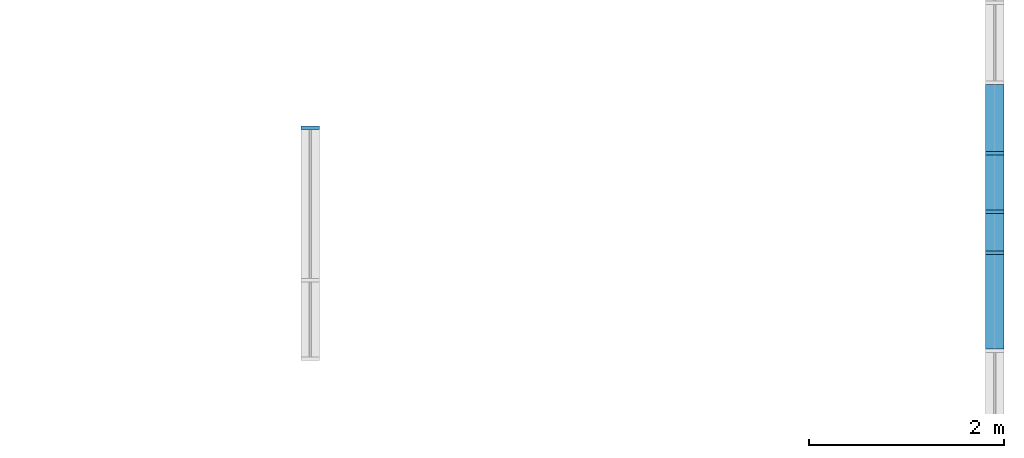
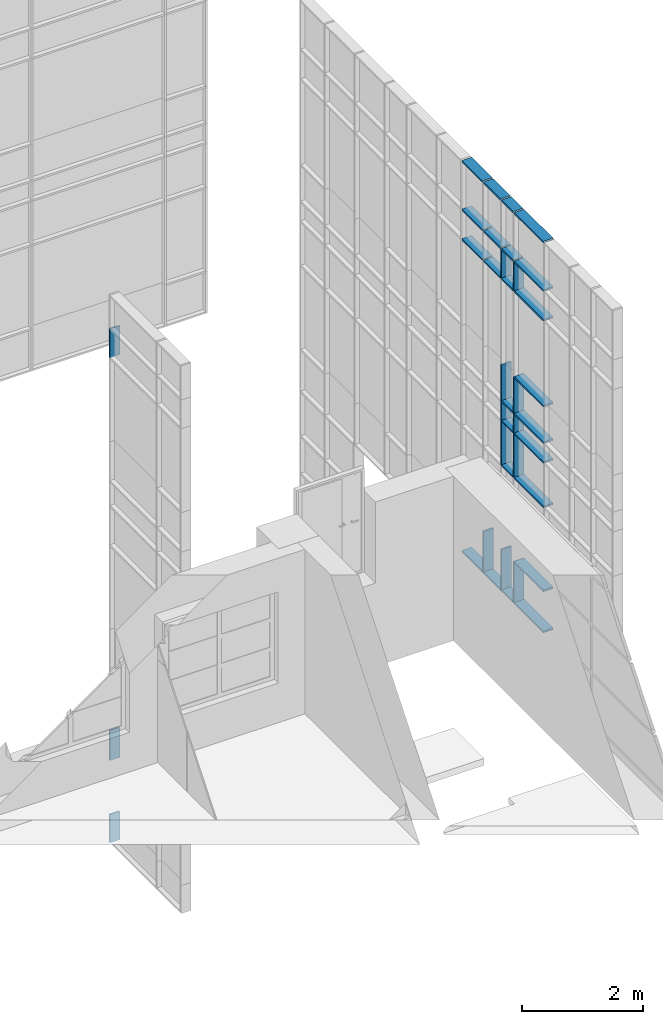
# One storey, part 14 of 73: 38 members, 2 elements without a shape of their own.
"""IFC2X3 building model written with IfcOpenShell, lengths in millimetres."""

from ifc_helpers import new_model, entity, si_unit, converted_unit, derived_unit, direction, frame, origin, origin_2d_with_axis, place, context, subcontext, project, spatial, rectangle, extrude, source, transform, mapped, material, type_object, type_shapes, element, aggregate, save


model = new_model("IFC2X3")

# Units and contexts
model_context = context("Model", 3, precision=0.01, world=origin(), true_north=direction((6.12303176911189e-17, 1.0)))
body_context = subcontext(model_context, "Body", "Model", "MODEL_VIEW")
ifc_project = project(units=[si_unit("LENGTHUNIT", "METRE", prefix="MILLI"), si_unit("AREAUNIT", "SQUARE_METRE"), si_unit("VOLUMEUNIT", "CUBIC_METRE"), converted_unit("PLANEANGLEUNIT", "DEGREE", entity("IfcRatioMeasure", 0.0174532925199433), si_unit("PLANEANGLEUNIT", "RADIAN"), dimensions=[0, 0, 0, 0, 0, 0, 0]), si_unit("MASSUNIT", "GRAM", prefix="KILO"), derived_unit("MASSDENSITYUNIT", [(si_unit("MASSUNIT", "GRAM", prefix="KILO"), 1), (si_unit("LENGTHUNIT", "METRE"), -3)]), si_unit("TIMEUNIT", "SECOND"), si_unit("FREQUENCYUNIT", "HERTZ"), si_unit("THERMODYNAMICTEMPERATUREUNIT", "DEGREE_CELSIUS"), derived_unit("THERMALTRANSMITTANCEUNIT", [(si_unit("MASSUNIT", "GRAM", prefix="KILO"), 1), (si_unit("THERMODYNAMICTEMPERATUREUNIT", "KELVIN"), -1), (si_unit("TIMEUNIT", "SECOND"), -3)]), derived_unit("VOLUMETRICFLOWRATEUNIT", [(si_unit("LENGTHUNIT", "METRE"), 3), (si_unit("TIMEUNIT", "SECOND"), -1)]), si_unit("ELECTRICCURRENTUNIT", "AMPERE"), si_unit("ELECTRICVOLTAGEUNIT", "VOLT"), si_unit("POWERUNIT", "WATT"), si_unit("FORCEUNIT", "NEWTON", prefix="KILO"), si_unit("ILLUMINANCEUNIT", "LUX"), si_unit("LUMINOUSFLUXUNIT", "LUMEN"), si_unit("LUMINOUSINTENSITYUNIT", "CANDELA"), derived_unit("USERDEFINED", [(si_unit("MASSUNIT", "GRAM", prefix="KILO"), -1), (si_unit("LENGTHUNIT", "METRE"), -2), (si_unit("TIMEUNIT", "SECOND"), 3), (si_unit("LUMINOUSFLUXUNIT", "LUMEN"), 1)]), derived_unit("LINEARVELOCITYUNIT", [(si_unit("LENGTHUNIT", "METRE"), 1), (si_unit("TIMEUNIT", "SECOND"), -1)]), si_unit("PRESSUREUNIT", "PASCAL"), derived_unit("USERDEFINED", [(si_unit("LENGTHUNIT", "METRE"), -2), (si_unit("MASSUNIT", "GRAM", prefix="KILO"), 1), (si_unit("TIMEUNIT", "SECOND"), -2)])], contexts=[model_context])

# Site, building, storey
site_placement = place(None, frame((-151.875543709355, 2715.0, 0.0)))
site = spatial("IfcSite", under=ifc_project, at=site_placement, Name="Surface", CompositionType="ELEMENT")
building_placement = place(site_placement, origin())
building = spatial("IfcBuilding", under=site, at=building_placement, CompositionType="ELEMENT")
storey_placement = place(building_placement, frame((0.0, 0.0, 6730.43000000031)))
storey = spatial("IfcBuildingStorey", under=building, at=storey_placement, Name="3 korrus", CompositionType="ELEMENT", Elevation=6730.43000000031)

# Curtain wall, members
curtain_wall_type = type_object("IfcCurtainWallType", Name="Curtain Wall:Klaasfassaad", PredefinedType="NOTDEFINED")
curtain_wall_1_placement = place(storey_placement, frame((0.0, 0.0, -6730.43000000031)))
curtain_wall_1 = element("IfcCurtainWall", 1, at=curtain_wall_1_placement, inside=storey, type_object=curtain_wall_type, Name="Curtain Wall:Klaasfassaad", ObjectType="Curtain Wall:Klaasfassaad")
ifc_material = material(Name="Steel/Aluminium")
member_type_1 = type_object("IfcMemberType", Name="35 x 190mm", PredefinedType="MEMBER")
shared_shape_1 = source(origin(), body_context, "Body", "SweptSolid", [
    extrude(rectangle(XDim=190.0, YDim=35.0, at=origin_2d_with_axis()), frame((-17.5, 0.0, -685.0), z_axis=(0.0, 0.0, 1.0), x_axis=(0.0, -1.0, 0.0)), (0.0, 0.0, 1.0), 684.999999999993),
])
type_shapes(member_type_1, [shared_shape_1])
member_1_placement = place(storey_placement, frame((38701.6162681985, 17748.0004565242, -2856.00226032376), z_axis=(0.0, -1.0, 0.0), x_axis=(0.0, 0.0, -1.0)))
member_1 = element("IfcMember", 2, at=member_1_placement, type_object=member_type_1, material=ifc_material, Name="Rectangular Mullion:35 x 190mm", ObjectType="35 x 190mm", context=body_context, shape_type="MappedRepresentation", body=[
    mapped(shared_shape_1, transform((0.0, 0.0, 0.0), scale=1.0)),
])
member_type_2 = type_object("IfcMemberType", Name="35 x 190mm", PredefinedType="MEMBER")
shared_shape_2 = source(origin(), body_context, "Body", "SweptSolid", [
    extrude(rectangle(XDim=190.0, YDim=35.0, at=origin_2d_with_axis()), frame((-17.5, 0.0, -685.0), z_axis=(0.0, 0.0, 1.0), x_axis=(0.0, -1.0, 0.0)), (0.0, 0.0, 1.0), 684.999999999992),
])
type_shapes(member_type_2, [shared_shape_2])
member_2_placement = place(storey_placement, frame((38701.6162681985, 18433.0004565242, 5074.47692901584), z_axis=(0.0, 1.0, 0.0), x_axis=(0.0, 0.0, 1.0)))
member_2 = element("IfcMember", 3, at=member_2_placement, type_object=member_type_2, material=ifc_material, Name="Rectangular Mullion:35 x 190mm", ObjectType="35 x 190mm", context=body_context, shape_type="MappedRepresentation", body=[
    mapped(shared_shape_2, transform((0.0, 0.0, 0.0), scale=1.0)),
])
member_type_3 = type_object("IfcMemberType", Name="35 x 190mm", PredefinedType="MEMBER")
shared_shape_3 = source(origin(), body_context, "Body", "SweptSolid", [
    extrude(rectangle(XDim=190.0, YDim=35.0, at=origin_2d_with_axis()), frame((-17.5, 0.0, -965.0), z_axis=(0.0, 0.0, 1.0), x_axis=(0.0, -1.0, 0.0)), (0.0, 0.0, 1.0), 964.999999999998),
])
type_shapes(member_type_3, [shared_shape_3])
member_3_placement = place(storey_placement, frame((38701.6162681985, 15728.0004565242, -2856.00226032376), z_axis=(0.0, -1.0, 0.0), x_axis=(0.0, 0.0, -1.0)))
member_3 = element("IfcMember", 4, at=member_3_placement, type_object=member_type_3, material=ifc_material, Name="Rectangular Mullion:35 x 190mm", ObjectType="35 x 190mm", context=body_context, shape_type="MappedRepresentation", body=[
    mapped(shared_shape_3, transform((0.0, 0.0, 0.0), scale=1.0)),
])
member_type_4 = type_object("IfcMemberType", Name="35 x 190mm", PredefinedType="MEMBER")
shared_shape_4 = source(origin(), body_context, "Body", "SweptSolid", [
    extrude(rectangle(XDim=190.0, YDim=35.0, at=origin_2d_with_axis()), frame((-17.5, 0.0, -965.0), z_axis=(0.0, 0.0, 1.0), x_axis=(0.0, -1.0, 0.0)), (0.0, 0.0, 1.0), 964.999999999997),
])
type_shapes(member_type_4, [shared_shape_4])
member_4_placement = place(storey_placement, frame((38701.6162681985, 16693.0004565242, 5074.47692901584), z_axis=(0.0, 1.0, 0.0), x_axis=(0.0, 0.0, 1.0)))
member_4 = element("IfcMember", 5, at=member_4_placement, type_object=member_type_4, material=ifc_material, Name="Rectangular Mullion:35 x 190mm", ObjectType="35 x 190mm", context=body_context, shape_type="MappedRepresentation", body=[
    mapped(shared_shape_4, transform((0.0, 0.0, 0.0), scale=1.0)),
])
member_type_5 = type_object("IfcMemberType", Name="35 x 190mm", PredefinedType="MEMBER")
shared_shape_5 = source(origin(), body_context, "Body", "SweptSolid", [
    extrude(rectangle(XDim=190.0, YDim=35.0, at=origin_2d_with_axis()), frame((-17.5, 0.0, -385.0), z_axis=(0.0, 0.0, 1.0), x_axis=(0.0, -1.0, 0.0)), (0.0, 0.0, 1.0), 385.000000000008),
])
type_shapes(member_type_5, [shared_shape_5])
member_5_placement = place(storey_placement, frame((38701.6162681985, 16728.0004565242, -2856.00226032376), z_axis=(0.0, -1.0, 0.0), x_axis=(0.0, 0.0, -1.0)))
member_5 = element("IfcMember", 6, at=member_5_placement, type_object=member_type_5, material=ifc_material, Name="Rectangular Mullion:35 x 190mm", ObjectType="35 x 190mm", context=body_context, shape_type="MappedRepresentation", body=[
    mapped(shared_shape_5, transform((0.0, 0.0, 0.0), scale=1.0)),
])
member_type_6 = type_object("IfcMemberType", Name="35 x 190mm", PredefinedType="MEMBER")
shared_shape_6 = source(origin(), body_context, "Body", "SweptSolid", [
    extrude(rectangle(XDim=190.0, YDim=35.0, at=origin_2d_with_axis()), frame((-17.5, 0.0, -385.0), z_axis=(0.0, 0.0, 1.0), x_axis=(0.0, -1.0, 0.0)), (0.0, 0.0, 1.0), 385.000000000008),
])
type_shapes(member_type_6, [shared_shape_6])
member_6_placement = place(storey_placement, frame((38701.6162681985, 17113.0004565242, 5074.47692901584), z_axis=(0.0, 1.0, 0.0), x_axis=(0.0, 0.0, 1.0)))
member_6 = element("IfcMember", 7, at=member_6_placement, type_object=member_type_6, material=ifc_material, Name="Rectangular Mullion:35 x 190mm", ObjectType="35 x 190mm", context=body_context, shape_type="MappedRepresentation", body=[
    mapped(shared_shape_6, transform((0.0, 0.0, 0.0), scale=1.0)),
])
member_type_7 = type_object("IfcMemberType", Name="35 x 190mm", PredefinedType="MEMBER")
shared_shape_7 = source(origin(), body_context, "Body", "SweptSolid", [
    extrude(rectangle(XDim=190.0, YDim=35.0, at=origin_2d_with_axis()), frame((-17.5, 0.0, -565.0), z_axis=(0.0, 0.0, 1.0), x_axis=(0.0, -1.0, 0.0)), (0.0, 0.0, 1.0), 565.000000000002),
])
type_shapes(member_type_7, [shared_shape_7])
member_7_placement = place(storey_placement, frame((38701.6162681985, 17148.0004565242, -2856.00226032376), z_axis=(0.0, -1.0, 0.0), x_axis=(0.0, 0.0, -1.0)))
member_7 = element("IfcMember", 8, at=member_7_placement, type_object=member_type_7, material=ifc_material, Name="Rectangular Mullion:35 x 190mm", ObjectType="35 x 190mm", context=body_context, shape_type="MappedRepresentation", body=[
    mapped(shared_shape_7, transform((0.0, 0.0, 0.0), scale=1.0)),
])
member_type_8 = type_object("IfcMemberType", Name="35 x 190mm", PredefinedType="MEMBER")
shared_shape_8 = source(origin(), body_context, "Body", "SweptSolid", [
    extrude(rectangle(XDim=190.0, YDim=35.0, at=origin_2d_with_axis()), frame((-17.5, 0.0, -565.0), z_axis=(0.0, 0.0, 1.0), x_axis=(0.0, -1.0, 0.0)), (0.0, 0.0, 1.0), 565.000000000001),
])
type_shapes(member_type_8, [shared_shape_8])
member_8_placement = place(storey_placement, frame((38701.6162681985, 17713.0004565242, 5074.47692901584), z_axis=(0.0, 1.0, 0.0), x_axis=(0.0, 0.0, 1.0)))
member_8 = element("IfcMember", 9, at=member_8_placement, type_object=member_type_8, material=ifc_material, Name="Rectangular Mullion:35 x 190mm", ObjectType="35 x 190mm", context=body_context, shape_type="MappedRepresentation", body=[
    mapped(shared_shape_8, transform((0.0, 0.0, 0.0), scale=1.0)),
])
member_type_9 = type_object("IfcMemberType", Name="35 x 190mm", PredefinedType="MEMBER")
shared_shape_9 = source(origin(), body_context, "Body", "SweptSolid", [
    extrude(rectangle(XDim=190.0, YDim=35.0, at=origin_2d_with_axis()), frame((0.0, 0.0, -850.159729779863), z_axis=(0.0, 0.0, 1.0), x_axis=(0.0, -1.0, 0.0)), (0.0, 0.0, 1.0), 850.159729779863),
])
type_shapes(member_type_9, [shared_shape_9])
member_9_placement = place(storey_placement, frame((38701.6162681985, 16710.5004565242, -2856.00226032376), z_axis=(0.0, 0.0, -1.0), x_axis=(0.0, 1.0, 0.0)))
member_9 = element("IfcMember", 10, at=member_9_placement, type_object=member_type_9, material=ifc_material, Name="Rectangular Mullion:35 x 190mm", ObjectType="35 x 190mm", context=body_context, shape_type="MappedRepresentation", body=[
    mapped(shared_shape_9, transform((0.0, 0.0, 0.0), scale=1.0)),
])
member_type_10 = type_object("IfcMemberType", Name="35 x 190mm", PredefinedType="MEMBER")
shared_shape_10 = source(origin(), body_context, "Body", "SweptSolid", [
    extrude(rectangle(XDim=190.0, YDim=35.0, at=origin_2d_with_axis()), frame((0.0, 0.0, -850.159729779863), z_axis=(0.0, 0.0, 1.0), x_axis=(0.0, -1.0, 0.0)), (0.0, 0.0, 1.0), 850.159729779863),
])
type_shapes(member_type_10, [shared_shape_10])
member_10_placement = place(storey_placement, frame((38701.6162681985, 17130.5004565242, -2856.00226032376), z_axis=(0.0, 0.0, -1.0), x_axis=(0.0, 1.0, 0.0)))
member_10 = element("IfcMember", 11, at=member_10_placement, type_object=member_type_10, material=ifc_material, Name="Rectangular Mullion:35 x 190mm", ObjectType="35 x 190mm", context=body_context, shape_type="MappedRepresentation", body=[
    mapped(shared_shape_10, transform((0.0, 0.0, 0.0), scale=1.0)),
])
member_11_placement = place(storey_placement, frame((38701.6162681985, 17730.5004565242, -2856.00226032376), z_axis=(0.0, 0.0, -1.0), x_axis=(0.0, 1.0, 0.0)))
member_11 = element("IfcMember", 12, at=member_11_placement, type_object=member_type_10, material=ifc_material, Name="Rectangular Mullion:35 x 190mm", ObjectType="35 x 190mm", context=body_context, shape_type="MappedRepresentation", body=[
    mapped(shared_shape_10, transform((0.0, 0.0, 0.0), scale=1.0)),
])
member_type_11 = type_object("IfcMemberType", Name="35 x 190mm", PredefinedType="MEMBER")
shared_shape_11 = source(origin(), body_context, "Body", "SweptSolid", [
    extrude(rectangle(XDim=190.0, YDim=35.0, at=origin_2d_with_axis()), frame((0.0, 0.0, -685.0), z_axis=(0.0, 0.0, 1.0), x_axis=(0.0, -1.0, 0.0)), (0.0, 0.0, 1.0), 684.999999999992),
])
type_shapes(member_type_11, [shared_shape_11])
member_12_placement = place(storey_placement, frame((38701.6162681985, 18433.0004565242, 4074.47692901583), z_axis=(0.0, 1.0, 0.0), x_axis=(0.0, 0.0, 1.0)))
member_12 = element("IfcMember", 13, at=member_12_placement, type_object=member_type_11, material=ifc_material, Name="Rectangular Mullion:35 x 190mm", ObjectType="35 x 190mm", context=body_context, shape_type="MappedRepresentation", body=[
    mapped(shared_shape_11, transform((0.0, 0.0, 0.0), scale=1.0)),
])
member_type_12 = type_object("IfcMemberType", Name="35 x 190mm", PredefinedType="MEMBER")
shared_shape_12 = source(origin(), body_context, "Body", "SweptSolid", [
    extrude(rectangle(XDim=190.0, YDim=35.0, at=origin_2d_with_axis()), frame((0.0, 0.0, -965.0), z_axis=(0.0, 0.0, 1.0), x_axis=(0.0, -1.0, 0.0)), (0.0, 0.0, 1.0), 964.999999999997),
])
type_shapes(member_type_12, [shared_shape_12])
member_13_placement = place(storey_placement, frame((38701.6162681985, 16693.0004565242, 4074.47692901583), z_axis=(0.0, 1.0, 0.0), x_axis=(0.0, 0.0, 1.0)))
member_13 = element("IfcMember", 14, at=member_13_placement, type_object=member_type_12, material=ifc_material, Name="Rectangular Mullion:35 x 190mm", ObjectType="35 x 190mm", context=body_context, shape_type="MappedRepresentation", body=[
    mapped(shared_shape_12, transform((0.0, 0.0, 0.0), scale=1.0)),
])
member_type_13 = type_object("IfcMemberType", Name="35 x 190mm", PredefinedType="MEMBER")
shared_shape_13 = source(origin(), body_context, "Body", "SweptSolid", [
    extrude(rectangle(XDim=190.0, YDim=35.0, at=origin_2d_with_axis()), frame((0.0, 0.0, -385.0), z_axis=(0.0, 0.0, 1.0), x_axis=(0.0, -1.0, 0.0)), (0.0, 0.0, 1.0), 385.000000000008),
])
type_shapes(member_type_13, [shared_shape_13])
member_14_placement = place(storey_placement, frame((38701.6162681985, 17113.0004565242, 4074.47692901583), z_axis=(0.0, 1.0, 0.0), x_axis=(0.0, 0.0, 1.0)))
member_14 = element("IfcMember", 15, at=member_14_placement, type_object=member_type_13, material=ifc_material, Name="Rectangular Mullion:35 x 190mm", ObjectType="35 x 190mm", context=body_context, shape_type="MappedRepresentation", body=[
    mapped(shared_shape_13, transform((0.0, 0.0, 0.0), scale=1.0)),
])
member_type_14 = type_object("IfcMemberType", Name="35 x 190mm", PredefinedType="MEMBER")
shared_shape_14 = source(origin(), body_context, "Body", "SweptSolid", [
    extrude(rectangle(XDim=190.0, YDim=35.0, at=origin_2d_with_axis()), frame((0.0, 0.0, -565.0), z_axis=(0.0, 0.0, 1.0), x_axis=(0.0, -1.0, 0.0)), (0.0, 0.0, 1.0), 565.000000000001),
])
type_shapes(member_type_14, [shared_shape_14])
member_15_placement = place(storey_placement, frame((38701.6162681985, 17713.0004565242, 4074.47692901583), z_axis=(0.0, 1.0, 0.0), x_axis=(0.0, 0.0, 1.0)))
member_15 = element("IfcMember", 16, at=member_15_placement, type_object=member_type_14, material=ifc_material, Name="Rectangular Mullion:35 x 190mm", ObjectType="35 x 190mm", context=body_context, shape_type="MappedRepresentation", body=[
    mapped(shared_shape_14, transform((0.0, 0.0, 0.0), scale=1.0)),
])
member_type_15 = type_object("IfcMemberType", Name="35 x 190mm", PredefinedType="MEMBER")
shared_shape_15 = source(origin(), body_context, "Body", "SweptSolid", [
    extrude(rectangle(XDim=190.0, YDim=35.0, at=origin_2d_with_axis()), frame((0.0, 0.0, -685.0), z_axis=(0.0, 0.0, 1.0), x_axis=(0.0, -1.0, 0.0)), (0.0, 0.0, 1.0), 684.999999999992),
])
type_shapes(member_type_15, [shared_shape_15])
member_16_placement = place(storey_placement, frame((38701.6162681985, 18433.0004565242, 3474.47692901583), z_axis=(0.0, 1.0, 0.0), x_axis=(0.0, 0.0, 1.0)))
member_16 = element("IfcMember", 17, at=member_16_placement, type_object=member_type_15, material=ifc_material, Name="Rectangular Mullion:35 x 190mm", ObjectType="35 x 190mm", context=body_context, shape_type="MappedRepresentation", body=[
    mapped(shared_shape_15, transform((0.0, 0.0, 0.0), scale=1.0)),
])
member_type_16 = type_object("IfcMemberType", Name="35 x 190mm", PredefinedType="MEMBER")
shared_shape_16 = source(origin(), body_context, "Body", "SweptSolid", [
    extrude(rectangle(XDim=190.0, YDim=35.0, at=origin_2d_with_axis()), frame((0.0, 0.0, -965.0), z_axis=(0.0, 0.0, 1.0), x_axis=(0.0, -1.0, 0.0)), (0.0, 0.0, 1.0), 964.999999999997),
])
type_shapes(member_type_16, [shared_shape_16])
member_17_placement = place(storey_placement, frame((38701.6162681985, 16693.0004565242, 3474.47692901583), z_axis=(0.0, 1.0, 0.0), x_axis=(0.0, 0.0, 1.0)))
member_17 = element("IfcMember", 18, at=member_17_placement, type_object=member_type_16, material=ifc_material, Name="Rectangular Mullion:35 x 190mm", ObjectType="35 x 190mm", context=body_context, shape_type="MappedRepresentation", body=[
    mapped(shared_shape_16, transform((0.0, 0.0, 0.0), scale=1.0)),
])
member_type_17 = type_object("IfcMemberType", Name="35 x 190mm", PredefinedType="MEMBER")
shared_shape_17 = source(origin(), body_context, "Body", "SweptSolid", [
    extrude(rectangle(XDim=190.0, YDim=35.0, at=origin_2d_with_axis()), frame((0.0, 0.0, -385.0), z_axis=(0.0, 0.0, 1.0), x_axis=(0.0, -1.0, 0.0)), (0.0, 0.0, 1.0), 385.000000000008),
])
type_shapes(member_type_17, [shared_shape_17])
member_18_placement = place(storey_placement, frame((38701.6162681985, 17113.0004565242, 3474.47692901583), z_axis=(0.0, 1.0, 0.0), x_axis=(0.0, 0.0, 1.0)))
member_18 = element("IfcMember", 19, at=member_18_placement, type_object=member_type_17, material=ifc_material, Name="Rectangular Mullion:35 x 190mm", ObjectType="35 x 190mm", context=body_context, shape_type="MappedRepresentation", body=[
    mapped(shared_shape_17, transform((0.0, 0.0, 0.0), scale=1.0)),
])
member_type_18 = type_object("IfcMemberType", Name="35 x 190mm", PredefinedType="MEMBER")
shared_shape_18 = source(origin(), body_context, "Body", "SweptSolid", [
    extrude(rectangle(XDim=190.0, YDim=35.0, at=origin_2d_with_axis()), frame((0.0, 0.0, -565.0), z_axis=(0.0, 0.0, 1.0), x_axis=(0.0, -1.0, 0.0)), (0.0, 0.0, 1.0), 565.000000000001),
])
type_shapes(member_type_18, [shared_shape_18])
member_19_placement = place(storey_placement, frame((38701.6162681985, 17713.0004565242, 3474.47692901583), z_axis=(0.0, 1.0, 0.0), x_axis=(0.0, 0.0, 1.0)))
member_19 = element("IfcMember", 20, at=member_19_placement, type_object=member_type_18, material=ifc_material, Name="Rectangular Mullion:35 x 190mm", ObjectType="35 x 190mm", context=body_context, shape_type="MappedRepresentation", body=[
    mapped(shared_shape_18, transform((0.0, 0.0, 0.0), scale=1.0)),
])
member_type_19 = type_object("IfcMemberType", Name="35 x 190mm", PredefinedType="MEMBER")
shared_shape_19 = source(origin(), body_context, "Body", "SweptSolid", [
    extrude(rectangle(XDim=190.0, YDim=35.0, at=origin_2d_with_axis()), frame((0.0, 0.0, -965.0), z_axis=(0.0, 0.0, 1.0), x_axis=(0.0, -1.0, 0.0)), (0.0, 0.0, 1.0), 964.999999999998),
])
type_shapes(member_type_19, [shared_shape_19])
member_20_placement = place(storey_placement, frame((38701.6162681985, 16693.0004565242, 994.476929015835), z_axis=(0.0, 1.0, 0.0), x_axis=(0.0, 0.0, 1.0)))
member_20 = element("IfcMember", 21, at=member_20_placement, type_object=member_type_19, material=ifc_material, Name="Rectangular Mullion:35 x 190mm", ObjectType="35 x 190mm", context=body_context, shape_type="MappedRepresentation", body=[
    mapped(shared_shape_19, transform((0.0, 0.0, 0.0), scale=1.0)),
])
member_type_20 = type_object("IfcMemberType", Name="35 x 190mm", PredefinedType="MEMBER")
shared_shape_20 = source(origin(), body_context, "Body", "SweptSolid", [
    extrude(rectangle(XDim=190.0, YDim=35.0, at=origin_2d_with_axis()), frame((0.0, 0.0, -385.0), z_axis=(0.0, 0.0, 1.0), x_axis=(0.0, -1.0, 0.0)), (0.0, 0.0, 1.0), 385.000000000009),
])
type_shapes(member_type_20, [shared_shape_20])
member_21_placement = place(storey_placement, frame((38701.6162681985, 17113.0004565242, 994.476929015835), z_axis=(0.0, 1.0, 0.0), x_axis=(0.0, 0.0, 1.0)))
member_21 = element("IfcMember", 22, at=member_21_placement, type_object=member_type_20, material=ifc_material, Name="Rectangular Mullion:35 x 190mm", ObjectType="35 x 190mm", context=body_context, shape_type="MappedRepresentation", body=[
    mapped(shared_shape_20, transform((0.0, 0.0, 0.0), scale=1.0)),
])
member_type_21 = type_object("IfcMemberType", Name="35 x 190mm", PredefinedType="MEMBER")
shared_shape_21 = source(origin(), body_context, "Body", "SweptSolid", [
    extrude(rectangle(XDim=190.0, YDim=35.0, at=origin_2d_with_axis()), frame((0.0, 0.0, -965.0), z_axis=(0.0, 0.0, 1.0), x_axis=(0.0, -1.0, 0.0)), (0.0, 0.0, 1.0), 964.999999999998),
])
type_shapes(member_type_21, [shared_shape_21])
member_22_placement = place(storey_placement, frame((38701.6162681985, 16693.0004565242, 594.476929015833), z_axis=(0.0, 1.0, 0.0), x_axis=(0.0, 0.0, 1.0)))
member_22 = element("IfcMember", 23, at=member_22_placement, type_object=member_type_21, material=ifc_material, Name="Rectangular Mullion:35 x 190mm", ObjectType="35 x 190mm", context=body_context, shape_type="MappedRepresentation", body=[
    mapped(shared_shape_21, transform((0.0, 0.0, 0.0), scale=1.0)),
])
member_type_22 = type_object("IfcMemberType", Name="35 x 190mm", PredefinedType="MEMBER")
shared_shape_22 = source(origin(), body_context, "Body", "SweptSolid", [
    extrude(rectangle(XDim=190.0, YDim=35.0, at=origin_2d_with_axis()), frame((0.0, 0.0, -385.0), z_axis=(0.0, 0.0, 1.0), x_axis=(0.0, -1.0, 0.0)), (0.0, 0.0, 1.0), 385.000000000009),
])
type_shapes(member_type_22, [shared_shape_22])
member_23_placement = place(storey_placement, frame((38701.6162681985, 17113.0004565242, 594.476929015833), z_axis=(0.0, 1.0, 0.0), x_axis=(0.0, 0.0, 1.0)))
member_23 = element("IfcMember", 24, at=member_23_placement, type_object=member_type_22, material=ifc_material, Name="Rectangular Mullion:35 x 190mm", ObjectType="35 x 190mm", context=body_context, shape_type="MappedRepresentation", body=[
    mapped(shared_shape_22, transform((0.0, 0.0, 0.0), scale=1.0)),
])
member_type_23 = type_object("IfcMemberType", Name="35 x 190mm", PredefinedType="MEMBER")
shared_shape_23 = source(origin(), body_context, "Body", "SweptSolid", [
    extrude(rectangle(XDim=190.0, YDim=35.0, at=origin_2d_with_axis()), frame((0.0, 0.0, -965.0), z_axis=(0.0, 0.0, 1.0), x_axis=(0.0, -1.0, 0.0)), (0.0, 0.0, 1.0), 964.999999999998),
])
type_shapes(member_type_23, [shared_shape_23])
member_24_placement = place(storey_placement, frame((38701.6162681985, 16693.0004565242, -305.523070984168), z_axis=(0.0, 1.0, 0.0), x_axis=(0.0, 0.0, 1.0)))
member_24 = element("IfcMember", 25, at=member_24_placement, type_object=member_type_23, material=ifc_material, Name="Rectangular Mullion:35 x 190mm", ObjectType="35 x 190mm", context=body_context, shape_type="MappedRepresentation", body=[
    mapped(shared_shape_23, transform((0.0, 0.0, 0.0), scale=1.0)),
])
member_type_24 = type_object("IfcMemberType", Name="35 x 190mm", PredefinedType="MEMBER")
shared_shape_24 = source(origin(), body_context, "Body", "SweptSolid", [
    extrude(rectangle(XDim=190.0, YDim=35.0, at=origin_2d_with_axis()), frame((0.0, 0.0, -385.0), z_axis=(0.0, 0.0, 1.0), x_axis=(0.0, -1.0, 0.0)), (0.0, 0.0, 1.0), 385.000000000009),
])
type_shapes(member_type_24, [shared_shape_24])
member_25_placement = place(storey_placement, frame((38701.6162681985, 17113.0004565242, -305.523070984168), z_axis=(0.0, 1.0, 0.0), x_axis=(0.0, 0.0, 1.0)))
member_25 = element("IfcMember", 26, at=member_25_placement, type_object=member_type_24, material=ifc_material, Name="Rectangular Mullion:35 x 190mm", ObjectType="35 x 190mm", context=body_context, shape_type="MappedRepresentation", body=[
    mapped(shared_shape_24, transform((0.0, 0.0, 0.0), scale=1.0)),
])
member_type_25 = type_object("IfcMemberType", Name="35 x 190mm", PredefinedType="MEMBER")
shared_shape_25 = source(origin(), body_context, "Body", "SweptSolid", [
    extrude(rectangle(XDim=190.0, YDim=35.0, at=origin_2d_with_axis()), frame((0.0, 0.0, -600.0), z_axis=(0.0, 0.0, 1.0), x_axis=(0.0, -1.0, 0.0)), (0.0, 0.0, 1.0), 599.999999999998),
])
type_shapes(member_type_25, [shared_shape_25])
member_26_placement = place(storey_placement, frame((38701.6162681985, 16710.5004565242, 3474.47692901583), z_axis=(0.0, 0.0, -1.0), x_axis=(0.0, 1.0, 0.0)))
member_26 = element("IfcMember", 27, at=member_26_placement, type_object=member_type_25, material=ifc_material, Name="Rectangular Mullion:35 x 190mm", ObjectType="35 x 190mm", context=body_context, shape_type="MappedRepresentation", body=[
    mapped(shared_shape_25, transform((0.0, 0.0, 0.0), scale=1.0)),
])
member_27_placement = place(storey_placement, frame((38701.6162681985, 17130.5004565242, 3474.47692901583), z_axis=(0.0, 0.0, -1.0), x_axis=(0.0, 1.0, 0.0)))
member_27 = element("IfcMember", 28, at=member_27_placement, type_object=member_type_25, material=ifc_material, Name="Rectangular Mullion:35 x 190mm", ObjectType="35 x 190mm", context=body_context, shape_type="MappedRepresentation", body=[
    mapped(shared_shape_25, transform((0.0, 0.0, 0.0), scale=1.0)),
])
member_type_26 = type_object("IfcMemberType", Name="35 x 190mm", PredefinedType="MEMBER")
shared_shape_26 = source(origin(), body_context, "Body", "SweptSolid", [
    extrude(rectangle(XDim=190.0, YDim=35.0, at=origin_2d_with_axis()), frame((0.0, 0.0, -740.0), z_axis=(0.0, 0.0, 1.0), x_axis=(0.0, -1.0, 0.0)), (0.0, 0.0, 1.0), 740.000000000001),
])
type_shapes(member_type_26, [shared_shape_26])
member_28_placement = place(storey_placement, frame((38701.6162681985, 16710.5004565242, 994.476929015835), z_axis=(0.0, 0.0, -1.0), x_axis=(0.0, 1.0, 0.0)))
member_28 = element("IfcMember", 29, at=member_28_placement, type_object=member_type_26, material=ifc_material, Name="Rectangular Mullion:35 x 190mm", ObjectType="35 x 190mm", context=body_context, shape_type="MappedRepresentation", body=[
    mapped(shared_shape_26, transform((0.0, 0.0, 0.0), scale=1.0)),
])
member_type_27 = type_object("IfcMemberType", Name="35 x 190mm", PredefinedType="MEMBER")
shared_shape_27 = source(origin(), body_context, "Body", "SweptSolid", [
    extrude(rectangle(XDim=190.0, YDim=35.0, at=origin_2d_with_axis()), frame((0.0, 0.0, -400.0), z_axis=(0.0, 0.0, 1.0), x_axis=(0.0, -1.0, 0.0)), (0.0, 0.0, 1.0), 400.0),
])
type_shapes(member_type_27, [shared_shape_27])
member_29_placement = place(storey_placement, frame((38701.6162681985, 16710.5004565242, 594.476929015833), z_axis=(0.0, 0.0, -1.0), x_axis=(0.0, 1.0, 0.0)))
member_29 = element("IfcMember", 30, at=member_29_placement, type_object=member_type_27, material=ifc_material, Name="Rectangular Mullion:35 x 190mm", ObjectType="35 x 190mm", context=body_context, shape_type="MappedRepresentation", body=[
    mapped(shared_shape_27, transform((0.0, 0.0, 0.0), scale=1.0)),
])
member_30_placement = place(storey_placement, frame((38701.6162681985, 17130.5004565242, 594.476929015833), z_axis=(0.0, 0.0, -1.0), x_axis=(0.0, 1.0, 0.0)))
member_30 = element("IfcMember", 31, at=member_30_placement, type_object=member_type_27, material=ifc_material, Name="Rectangular Mullion:35 x 190mm", ObjectType="35 x 190mm", context=body_context, shape_type="MappedRepresentation", body=[
    mapped(shared_shape_27, transform((0.0, 0.0, 0.0), scale=1.0)),
])
member_type_28 = type_object("IfcMemberType", Name="35 x 190mm", PredefinedType="MEMBER")
shared_shape_28 = source(origin(), body_context, "Body", "SweptSolid", [
    extrude(rectangle(XDim=190.0, YDim=35.0, at=origin_2d_with_axis()), frame((0.0, 0.0, -900.0), z_axis=(0.0, 0.0, 1.0), x_axis=(0.0, -1.0, 0.0)), (0.0, 0.0, 1.0), 900.000000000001),
])
type_shapes(member_type_28, [shared_shape_28])
member_31_placement = place(storey_placement, frame((38701.6162681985, 16710.5004565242, -305.523070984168), z_axis=(0.0, 0.0, -1.0), x_axis=(0.0, 1.0, 0.0)))
member_31 = element("IfcMember", 32, at=member_31_placement, type_object=member_type_28, material=ifc_material, Name="Rectangular Mullion:35 x 190mm", ObjectType="35 x 190mm", context=body_context, shape_type="MappedRepresentation", body=[
    mapped(shared_shape_28, transform((0.0, 0.0, 0.0), scale=1.0)),
])
member_32_placement = place(storey_placement, frame((38701.6162681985, 17130.5004565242, -305.523070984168), z_axis=(0.0, 0.0, -1.0), x_axis=(0.0, 1.0, 0.0)))
member_32 = element("IfcMember", 33, at=member_32_placement, type_object=member_type_28, material=ifc_material, Name="Rectangular Mullion:35 x 190mm", ObjectType="35 x 190mm", context=body_context, shape_type="MappedRepresentation", body=[
    mapped(shared_shape_28, transform((0.0, 0.0, 0.0), scale=1.0)),
])
member_type_29 = type_object("IfcMemberType", Name="35 x 190mm", PredefinedType="MEMBER")
shared_shape_29 = source(origin(), body_context, "Body", "SweptSolid", [
    extrude(rectangle(XDim=190.0, YDim=35.0, at=origin_2d_with_axis()), frame((0.0, 0.0, -740.0), z_axis=(0.0, 0.0, 1.0), x_axis=(0.0, -1.0, 0.0)), (0.0, 0.0, 1.0), 740.000000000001),
])
type_shapes(member_type_29, [shared_shape_29])
member_33_placement = place(storey_placement, frame((38701.6162681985, 17130.5004565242, 994.476929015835), z_axis=(0.0, 0.0, -1.0), x_axis=(0.0, 1.0, 0.0)))
member_33 = element("IfcMember", 34, at=member_33_placement, type_object=member_type_29, material=ifc_material, Name="Rectangular Mullion:35 x 190mm", ObjectType="35 x 190mm", context=body_context, shape_type="MappedRepresentation", body=[
    mapped(shared_shape_29, transform((0.0, 0.0, 0.0), scale=1.0)),
])
member_type_30 = type_object("IfcMemberType", Name="35 x 190mm", PredefinedType="MEMBER")
shared_shape_30 = source(origin(), body_context, "Body", "SweptSolid", [
    extrude(rectangle(XDim=190.0, YDim=35.0, at=origin_2d_with_axis()), frame((0.0, 0.0, -965.0), z_axis=(0.0, 0.0, 1.0), x_axis=(0.0, -1.0, 0.0)), (0.0, 0.0, 1.0), 964.999999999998),
])
type_shapes(member_type_30, [shared_shape_30])
member_34_placement = place(storey_placement, frame((38701.6162681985, 16693.0004565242, 1734.47692901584), z_axis=(0.0, 1.0, 0.0), x_axis=(0.0, 0.0, 1.0)))
member_34 = element("IfcMember", 35, at=member_34_placement, type_object=member_type_30, material=ifc_material, Name="Rectangular Mullion:35 x 190mm", ObjectType="35 x 190mm", context=body_context, shape_type="MappedRepresentation", body=[
    mapped(shared_shape_30, transform((0.0, 0.0, 0.0), scale=1.0)),
])
member_type_31 = type_object("IfcMemberType", Name="35 x 190mm", PredefinedType="MEMBER")
shared_shape_31 = source(origin(), body_context, "Body", "SweptSolid", [
    extrude(rectangle(XDim=190.0, YDim=35.0, at=origin_2d_with_axis()), frame((0.0, 0.0, -965.0), z_axis=(0.0, 0.0, 1.0), x_axis=(0.0, -1.0, 0.0)), (0.0, 0.0, 1.0), 964.999999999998),
])
type_shapes(member_type_31, [shared_shape_31])
member_35_placement = place(storey_placement, frame((38701.6162681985, 16693.0004565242, -2005.8425305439), z_axis=(0.0, 1.0, 0.0), x_axis=(0.0, 0.0, 1.0)))
member_35 = element("IfcMember", 36, at=member_35_placement, type_object=member_type_31, material=ifc_material, Name="Rectangular Mullion:35 x 190mm", ObjectType="35 x 190mm", context=body_context, shape_type="MappedRepresentation", body=[
    mapped(shared_shape_31, transform((0.0, 0.0, 0.0), scale=1.0)),
])
aggregate(curtain_wall_1, [member_3, member_4, member_5, member_6, member_7, member_8, member_1, member_2, member_9, member_10, member_11, member_13, member_14, member_15, member_12, member_17, member_18, member_19, member_16, member_20, member_21, member_22, member_23, member_24, member_25, member_26, member_28, member_29, member_31, member_27, member_33, member_30, member_32, member_34, member_35])

curtain_wall_2_placement = place(storey_placement, frame((0.0, 0.0, -6730.43000000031)))
curtain_wall_2 = element("IfcCurtainWall", 37, at=curtain_wall_2_placement, inside=storey, type_object=curtain_wall_type, Name="Curtain Wall:Klaasfassaad", ObjectType="Curtain Wall:Klaasfassaad")
member_type_32 = type_object("IfcMemberType", Name="35 x 190mm", PredefinedType="MEMBER")
shared_shape_32 = source(origin(), body_context, "Body", "SweptSolid", [
    extrude(rectangle(XDim=190.0, YDim=35.0, at=origin_2d_with_axis()), frame((-17.5, 0.0, -585.0), z_axis=(0.0, 0.0, 1.0), x_axis=(0.0, -1.0, 0.0)), (0.0, 0.0, 1.0), 585.000000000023),
])
type_shapes(member_type_32, [shared_shape_32])
member_36_placement = place(storey_placement, frame((31697.6162682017, 18009.954261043, 4388.29487349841), z_axis=(0.0, 0.0, 1.0), x_axis=(0.0, 1.0, 0.0)))
member_36 = element("IfcMember", 38, at=member_36_placement, type_object=member_type_32, material=ifc_material, Name="Rectangular Mullion:35 x 190mm", ObjectType="35 x 190mm", context=body_context, shape_type="MappedRepresentation", body=[
    mapped(shared_shape_32, transform((0.0, 0.0, 0.0), scale=1.0)),
])
member_type_33 = type_object("IfcMemberType", Name="35 x 190mm", PredefinedType="MEMBER")
shared_shape_33 = source(origin(), body_context, "Body", "SweptSolid", [
    extrude(rectangle(XDim=190.0, YDim=35.0, at=origin_2d_with_axis()), frame((-17.5, 0.0, -601.749025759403), z_axis=(0.0, 0.0, 1.0), x_axis=(0.0, -1.0, 0.0)), (0.0, 0.0, 1.0), 601.749025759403),
])
type_shapes(member_type_33, [shared_shape_33])
member_37_placement = place(storey_placement, frame((31697.6162682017, 18009.954261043, -3746.70512650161), z_axis=(0.0, 0.0, 1.0), x_axis=(0.0, 1.0, 0.0)))
member_37 = element("IfcMember", 39, at=member_37_placement, type_object=member_type_33, material=ifc_material, Name="Rectangular Mullion:35 x 190mm", ObjectType="35 x 190mm", context=body_context, shape_type="MappedRepresentation", body=[
    mapped(shared_shape_33, transform((0.0, 0.0, 0.0), scale=1.0)),
])
member_type_34 = type_object("IfcMemberType", Name="35 x 190mm", PredefinedType="MEMBER")
shared_shape_34 = source(origin(), body_context, "Body", "SweptSolid", [
    extrude(rectangle(XDim=190.0, YDim=35.0, at=origin_2d_with_axis()), frame((-17.5, 0.0, -568.724873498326), z_axis=(0.0, 0.0, 1.0), x_axis=(0.0, -1.0, 0.0)), (0.0, 0.0, 1.0), 568.724873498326),
])
type_shapes(member_type_34, [shared_shape_34])
member_38_placement = place(storey_placement, frame((31697.6162682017, 18009.954261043, -5446.70512650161), z_axis=(0.0, 0.0, 1.0), x_axis=(0.0, 1.0, 0.0)))
member_38 = element("IfcMember", 40, at=member_38_placement, type_object=member_type_34, material=ifc_material, Name="Rectangular Mullion:35 x 190mm", ObjectType="35 x 190mm", context=body_context, shape_type="MappedRepresentation", body=[
    mapped(shared_shape_34, transform((0.0, 0.0, 0.0), scale=1.0)),
])
aggregate(curtain_wall_2, [member_36, member_37, member_38])

save(model, "model.ifc")
